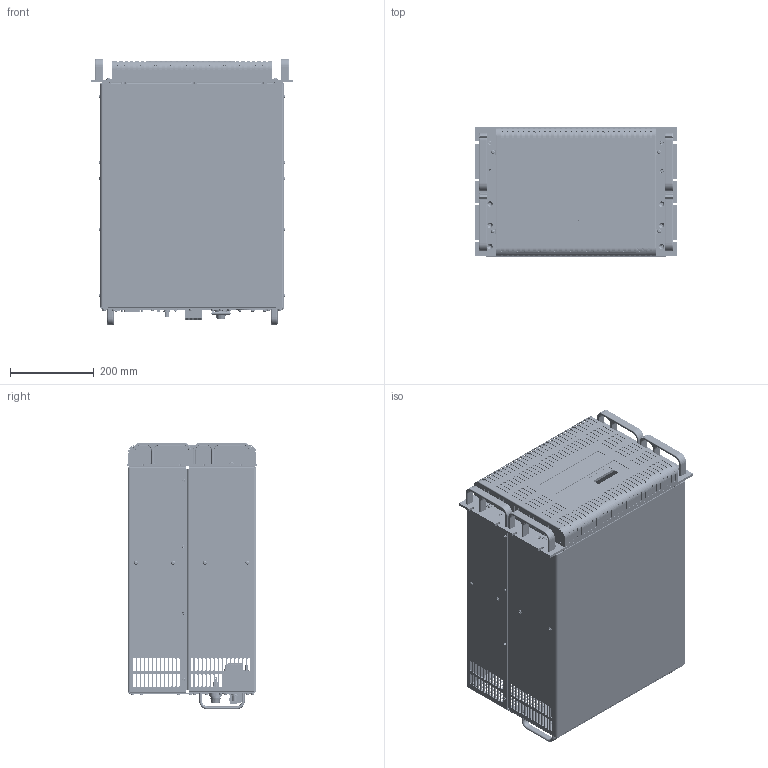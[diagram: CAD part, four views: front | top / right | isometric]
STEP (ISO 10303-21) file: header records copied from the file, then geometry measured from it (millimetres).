
FILE_DESCRIPTION (( 'STEP AP214' ), '1' );
FILE_NAME ('7796.STEP', '2021-10-20T20:53:13', ( '' ), ( '' ), 'SwSTEP 2.0', 'SolidWorks 2021', '' );
FILE_SCHEMA (( 'AUTOMOTIVE_DESIGN' ));
Length unit declared in the file: inch
Products named in the file (94): 66-8002424_R39; 83-1040010; 80-7060531 SCREW, SEMS, 6-32 X .313, TORX PH, BLK_80-7060531; STUD, PEM# FH-160-16, 10-32 x 1; 60-7784007_60-7784007; 81-8001274_81-8001274; 66-8002424_5mm-7mm_capacitor; 67-8002424_67-8002424; 66-8002424_User_Library-TO-92-2; 54-8001443; 53-8000789; 66-8002424_J2; 75-7700 SERIES 7U FRONT PANEL ASM_67-7784006; 60-7784146_60-7784146; 66-8002424_User_Library-440LD68-R; 10-7784148; 10-7784161; 66-8002424_J3; 16-7784139_16-7784139; NUT, PEM# S-632-2, 6-32, .054in Min Pnl, ZI; 60-7784148_60-7784148; 83-8001824; 48-8000847_48-8000847; 66-8002424_R33; 54-8001080_54-8001080; 66-8002424_User_Library-do_35; STANDOFF, PEM# BSO-632-12ZI, 6-32 X .375, ZI; 10-7784146; 66-8002424; 66-8002424_R35; NUT, PEM# SS-032-2, 10-32, .054in Min Pnl, ZI; 84-8001823; 60-7784191_60-7784191; 84-1060020_84-1060020; STANDOFF, PEM# BSO-632-30, 6-32 x .937,  ZI; 67-7796002_67-7796002; 10-7784190; 66-8002424_User_Library-Header1x2_Header1_1; 66-8002424_R32; 66-8002424_J5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
Assembly tree (294 placements, depth 6):
  7796
    67-7796002_67-7796002
      60-7784001_60-7784001
        10-7784001_H
        NUT, PEM# S-632-2, 6-32, .054in Min Pnl, ZI  x23
        STUD, PEM# FH-0420-24ZI, .25-20 X 1.50, ZI_FH-0420-24ZI
        STUD, PEM# FH-632-6, 6-32 x .375, ZI  x7
        STANDOFF, PEM# BSO-632-12ZI, 6-32 X .375, ZI  x5
        STUD, PEM# FH-160-6, 10-32 x .375, ZI  x16
        STUD, PEM# FH-215-8, .25-20 x .5, ZI  x8
        STUD, PEM# FH-160-16, 10-32 x 1  x5
    75-7700 SERIES 7U FRONT PANEL ASM_67-7784006
      12-7784140_12-7784140  x4
      60-7784148_60-7784148
        10-7784148
        STANDOFF, PEM# BSO-632-32, 6-32 x 1, ZI  x3
      60-7784007_60-7784007
        11-7784007
        STANDOFF, PEM# BSO-632-30, 6-32 x .937,  ZI  x7
      60-7784142_60-7784142
      foam_block_1_74-7796236
      16-7784139_16-7784139
      16-7784149_16-7784149
    75-7700 SERIES 7U BACK PANEL ASM_67-7784164
      60-7784161_60-7784161
        10-7784161
        NUT, PEM# S-632-2, 6-32, .054in Min Pnl, ZI  x8
        NUT, PEM# SS-032-2, 10-32, .054in Min Pnl, ZI  x2
        STUD, PEM# FH-632-6, 6-32 x .375, ZI  x6
      48-8000847_48-8000847
      54-8001083  x4
      60-7784169_60-7784169
      12-8001093_12-8001093  x2
      54-8001080_54-8001080
        54-8001443
      BHCS_80-7110610  x4
      84-1060020_84-1060020  x6
      80-7060531 SCREW, SEMS, 6-32 X .313, TORX PH, BLK_80-7060531  x9
      43-8001092
    67-8002424_67-8002424
      66-8002424
        66-8002424_Board
        66-8002424_J6
          66-8002424_pin_header_aw140-eg-g03d
        66-8002424_R38
          66-8002424_User_Library-do_35
        66-8002424_R37
          66-8002424_User_Library-do_35
        66-8002424_Q1
          66-8002424_User_Library-TO-92-2
        66-8002424_J5
          66-8002424_pin_header_aw140-eg-g03d
        66-8002424_U2
          66-8002424_User_Library-KB817-B
        66-8002424_U3
          66-8002424_User_Library-KB817-B
        66-8002424_J3
          66-8002424_c-5499910-07-a-3d
        66-8002424_J2
          66-8002424_c-796638-3-c3-3d
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Bounding box: 482.6 x 308.86 x 638.42 mm (x, y, z)
Volume: 7223832.8 mm3; surface area: 3023930.1 mm2
Topology: 344 solids, 344 shells, 22927 faces, 59427 edges, 37811 vertices
Faces by surface type: plane 10617, cylinder 7330, torus 2131, bspline 1589, cone 1220, sphere 40
Entity records: 312512 total; most frequent: CARTESIAN_POINT 80436, DIRECTION 42867, ORIENTED_EDGE 42464, EDGE_CURVE 21232, AXIS2_PLACEMENT_3D 14875, VERTEX_POINT 13650, LINE 13117, VECTOR 13117
